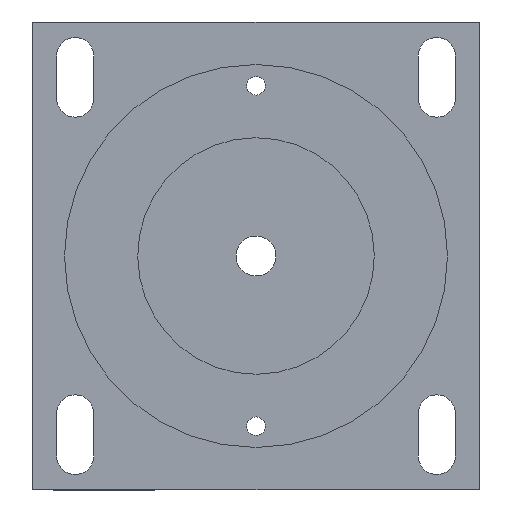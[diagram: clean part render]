
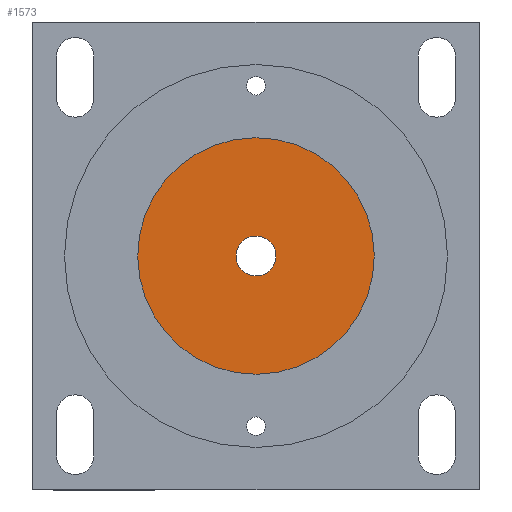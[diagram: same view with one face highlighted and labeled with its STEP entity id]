
A CAD part, front view. The second image highlights one B-rep face of the part: STEP entity #1573.
In plain terms, the highlighted planar face has unit normal (0, -1, 0).
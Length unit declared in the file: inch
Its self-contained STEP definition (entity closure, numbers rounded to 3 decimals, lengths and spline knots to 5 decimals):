
#171 = VERTEX_POINT ( 'NONE', #4660 ) ;
#296 = EDGE_CURVE ( 'NONE', #171, #3378, #2037, .T. ) ;
#380 = VERTEX_POINT ( 'NONE', #3489 ) ;
#389 = EDGE_CURVE ( 'NONE', #380, #1335, #2597, .T. ) ;
#435 = ORIENTED_EDGE ( 'NONE', *, *, #389, .F. ) ;
#559 = DIRECTION ( 'NONE',  ( 0., 1., 0. ) ) ;
#665 = AXIS2_PLACEMENT_3D ( 'NONE', #2638, #2995, #3406 ) ;
#853 = EDGE_CURVE ( 'NONE', #1335, #380, #2629, .T. ) ;
#1335 = VERTEX_POINT ( 'NONE', #4627 ) ;
#1573 = ADVANCED_FACE ( 'NONE', ( #1657, #2681 ), #3622, .F. ) ;
#1642 = EDGE_LOOP ( 'NONE', ( #3095, #3864 ) ) ;
#1657 = FACE_BOUND ( 'NONE', #4888, .T. ) ;
#1810 = DIRECTION ( 'NONE',  ( 0., 1., 0. ) ) ;
#2037 = CIRCLE ( 'NONE', #665, 1.39 ) ;
#2082 = CARTESIAN_POINT ( 'NONE',  ( 0.11309, -0.68926, 0.38537 ) ) ;
#2085 = CARTESIAN_POINT ( 'NONE',  ( 0.11309, -0.68926, 0.38537 ) ) ;
#2235 = ORIENTED_EDGE ( 'NONE', *, *, #853, .F. ) ;
#2237 = AXIS2_PLACEMENT_3D ( 'NONE', #2082, #559, #3250 ) ;
#2467 = AXIS2_PLACEMENT_3D ( 'NONE', #3424, #4279, #4579 ) ;
#2484 = DIRECTION ( 'NONE',  ( -0.862, 0., -0.508 ) ) ;
#2597 = CIRCLE ( 'NONE', #2467, 0.235 ) ;
#2629 = CIRCLE ( 'NONE', #3827, 0.235 ) ;
#2638 = CARTESIAN_POINT ( 'NONE',  ( 0.11309, -0.68926, 0.38537 ) ) ;
#2681 = FACE_OUTER_BOUND ( 'NONE', #1642, .T. ) ;
#2995 = DIRECTION ( 'NONE',  ( 0., 1., 0. ) ) ;
#3095 = ORIENTED_EDGE ( 'NONE', *, *, #296, .F. ) ;
#3250 = DIRECTION ( 'NONE',  ( 0.862, 0., 0.508 ) ) ;
#3378 = VERTEX_POINT ( 'NONE', #4962 ) ;
#3406 = DIRECTION ( 'NONE',  ( 0.862, 0., 0.508 ) ) ;
#3424 = CARTESIAN_POINT ( 'NONE',  ( 0.11309, -0.68926, 0.38537 ) ) ;
#3489 = CARTESIAN_POINT ( 'NONE',  ( -0.08939, -0.68926, 0.2661 ) ) ;
#3622 = PLANE ( 'NONE',  #2237 ) ;
#3827 = AXIS2_PLACEMENT_3D ( 'NONE', #2085, #4795, #2484 ) ;
#3864 = ORIENTED_EDGE ( 'NONE', *, *, #4652, .F. ) ;
#4113 = CARTESIAN_POINT ( 'NONE',  ( 0.11309, -0.68926, 0.38537 ) ) ;
#4279 = DIRECTION ( 'NONE',  ( 0., -1., 0. ) ) ;
#4502 = DIRECTION ( 'NONE',  ( 0.862, 0., 0.508 ) ) ;
#4579 = DIRECTION ( 'NONE',  ( -0.862, 0., -0.508 ) ) ;
#4627 = CARTESIAN_POINT ( 'NONE',  ( 0.31557, -0.68926, 0.50465 ) ) ;
#4652 = EDGE_CURVE ( 'NONE', #3378, #171, #4953, .T. ) ;
#4660 = CARTESIAN_POINT ( 'NONE',  ( 1.31075, -0.68926, 1.09086 ) ) ;
#4729 = AXIS2_PLACEMENT_3D ( 'NONE', #4113, #1810, #4502 ) ;
#4795 = DIRECTION ( 'NONE',  ( 0., -1., 0. ) ) ;
#4888 = EDGE_LOOP ( 'NONE', ( #435, #2235 ) ) ;
#4953 = CIRCLE ( 'NONE', #4729, 1.39 ) ;
#4962 = CARTESIAN_POINT ( 'NONE',  ( -1.08457, -0.68926, -0.32012 ) ) ;
